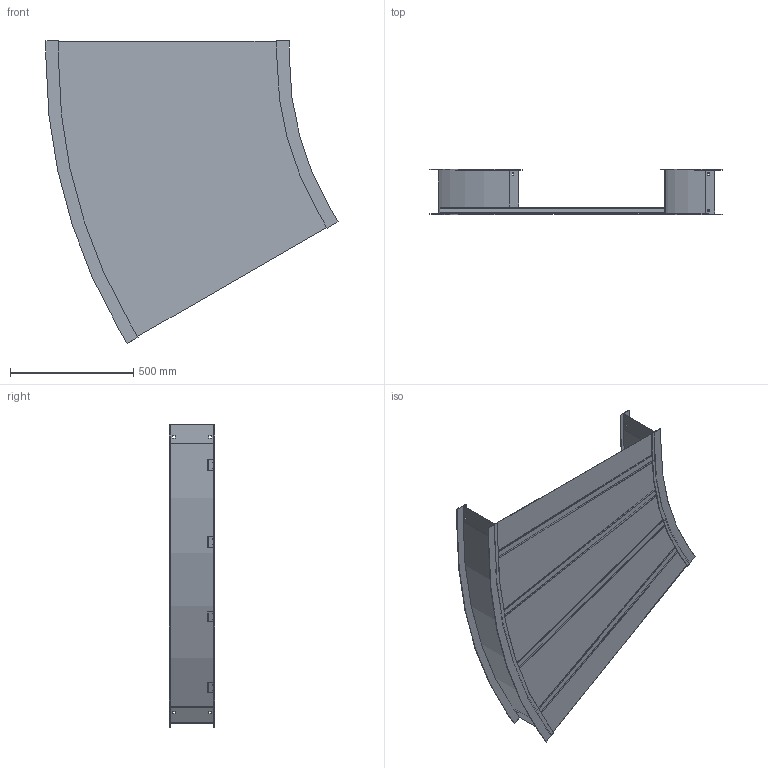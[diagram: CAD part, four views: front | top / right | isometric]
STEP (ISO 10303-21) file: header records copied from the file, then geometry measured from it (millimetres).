
FILE_DESCRIPTION((''),'2;1');
FILE_NAME('AHF736SHB3048_ASM','2010-01-28T',('erouzier'),(''),'PRO/ENGINEER BY PARAMETRIC TECHNOLOGY CORPORATION, 2008510','PRO/ENGINEER BY PARAMETRIC TECHNOLOGY CORPORATION, 2008510','');
FILE_SCHEMA(('CONFIG_CONTROL_DESIGN'));
Length unit declared in the file: inch
Products named in the file (5): CDS001813-7-30-48-I; CDS001813-7-30-84-O; CDS002159L36; ED04588-36-48-30; AHF736SHB3048_ASM
Assembly tree (7 placements, depth 2):
  AHF736SHB3048_ASM
    CDS001813-7-30-48-I
    CDS001813-7-30-84-O
    CDS002159L36  x4
    ED04588-36-48-30
Bounding box: 1183.99 x 183.9 x 1228.3 mm (x, y, z)
Volume: 2976648.4 mm3; surface area: 3905548 mm2
Topology: 7 solids, 7 shells, 214 faces, 600 edges, 400 vertices
Faces by surface type: plane 156, cylinder 58
Entity records: 4157 total; most frequent: CARTESIAN_POINT 716, ORIENTED_EDGE 696, DIRECTION 670, EDGE_CURVE 348, VECTOR 298, LINE 298, VERTEX_POINT 232, AXIS2_PLACEMENT_3D 186
